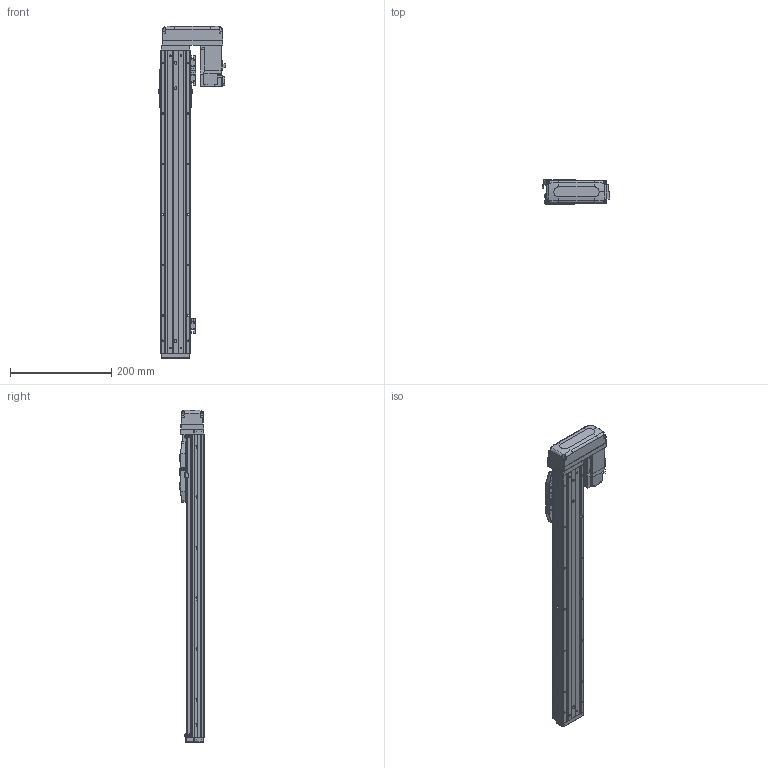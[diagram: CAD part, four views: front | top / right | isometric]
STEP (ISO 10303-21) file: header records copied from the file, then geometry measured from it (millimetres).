
FILE_DESCRIPTION (( 'STEP AP203' ), '1' );
FILE_NAME ('CTHA50-450-BL-M10-C4L.step', '2022-03-19T05:59:54', ( '微软用户' ), ( '微软中国' ), 'SwSTEP 2.0', 'SolidWorks 2020', '' );
FILE_SCHEMA (( 'CONFIG_CONTROL_DESIGN' ));
Length unit declared in the file: millimetre
Products named in the file (20): KTHA50-004; GBT 70.1-M4×12; GBT 70.3-M3℅6; KTHA50-005; CTHA60-016; CTHA50-015-2_CTHA60-015-2; GB¨uT 70.2-M3¡Á6_M3¡Á6; CTHA60-021; CTHA60-033; EE_SX911P_R; HG-KR13（三菱）; GBT 70.1-M3×15; GBT77-2000 M3×3; CTHA50-002; CTHA50-450-BL-M10-C4L; GBT 70.1-M3℅6; CTHA50-030; KTHA50-001_600; CTHA60-017; CTHA50-031
Assembly tree (60 placements, depth 2):
  CTHA50-450-BL-M10-C4L
    KTHA50-001_600
    KTHA50-004
    KTHA50-005
    GB¨uT 70.2-M3¡Á6_M3¡Á6  x10
    EE_SX911P_R  x3
    GBT77-2000 M3×3  x6
    GBT 70.1-M3℅6  x6
    CTHA60-017  x3
    GBT 70.1-M4×12  x10
    CTHA60-016  x2
    CTHA60-021  x2
    HG-KR13（三菱）
    CTHA50-002
    CTHA50-030  x2
    CTHA50-031
    GBT 70.3-M3℅6  x4
    CTHA50-015-2_CTHA60-015-2
    CTHA60-033
    GBT 70.1-M3×15  x4
Bounding box: 132.6 x 48 x 657 mm (x, y, z)
Volume: 1309847.8 mm3; surface area: 336599.1 mm2
Topology: 62 solids, 62 shells, 2533 faces, 6023 edges, 3690 vertices
Faces by surface type: plane 1434, cylinder 588, cone 353, torus 108, bspline 26, sphere 24
Entity records: 43331 total; most frequent: CARTESIAN_POINT 7995, DIRECTION 6755, ORIENTED_EDGE 6554, EDGE_CURVE 3277, VECTOR 2295, LINE 2295, AXIS2_PLACEMENT_3D 2230, VERTEX_POINT 2064
